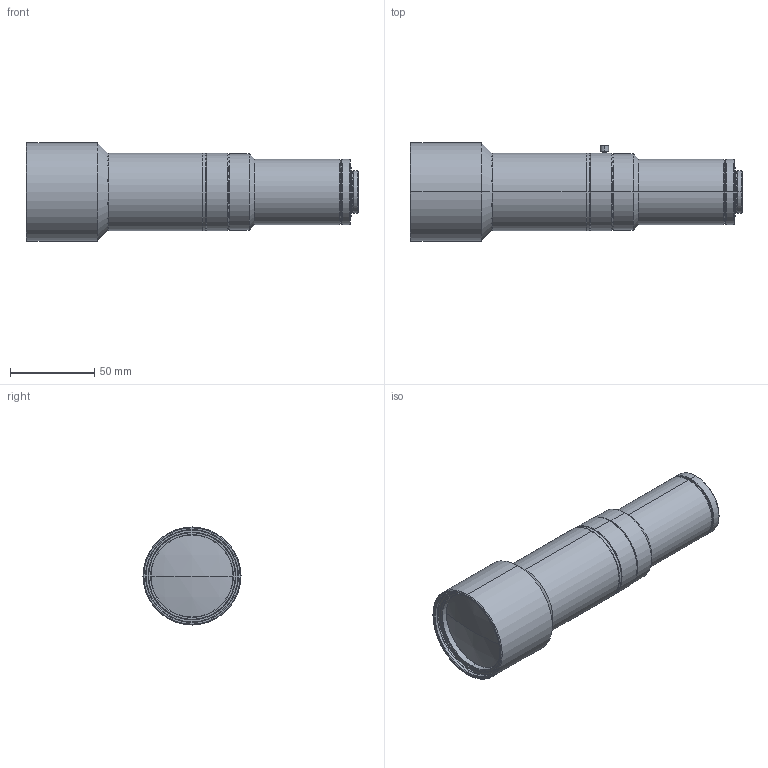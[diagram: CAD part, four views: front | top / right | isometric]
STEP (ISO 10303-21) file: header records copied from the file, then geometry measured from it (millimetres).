
FILE_DESCRIPTION (( 'STEP AP203' ), '1' );
FILE_NAME ('VS-TCM1-355_S.STEP', '2017-03-29T05:16:02', ( 'miura_vst' ), ( '' ), 'SwSTEP 2.0', 'SolidWorks 2017', '' );
FILE_SCHEMA (( 'CONFIG_CONTROL_DESIGN' ));
Length unit declared in the file: millimetre
Products named in the file (1): VS-TCM1-355_S
Bounding box: 196.47 x 58 x 58 mm (x, y, z)
Volume: 258936.8 mm3; surface area: 45339.9 mm2
Topology: 1 solids, 1 shells, 160 faces, 320 edges, 186 vertices
Faces by surface type: cone 80, cylinder 52, plane 24, sphere 4
Entity records: 4239 total; most frequent: DIRECTION 826, CARTESIAN_POINT 699, ORIENTED_EDGE 640, AXIS2_PLACEMENT_3D 347, EDGE_CURVE 320, VERTEX_POINT 186, CIRCLE 186, EDGE_LOOP 184
